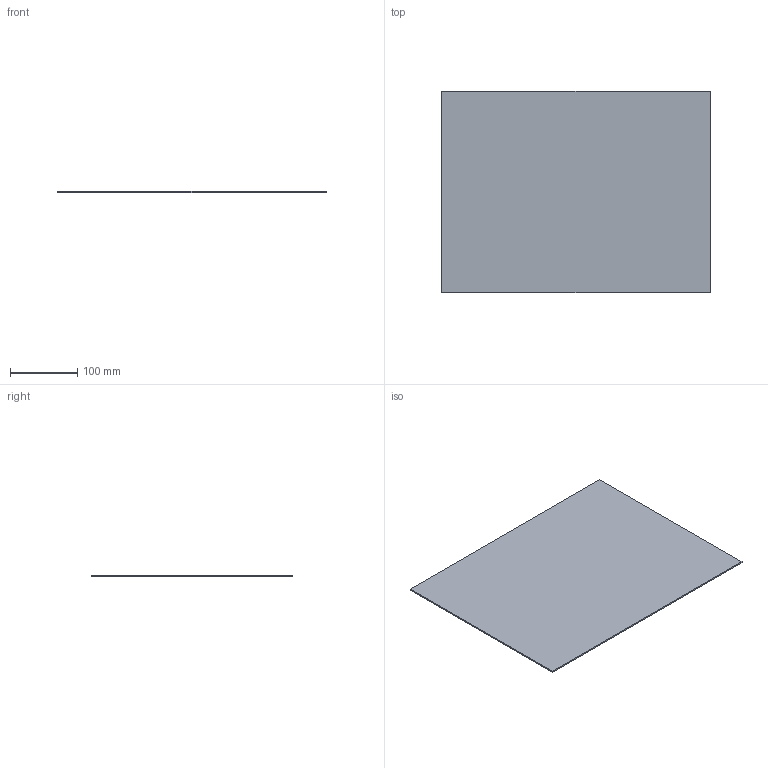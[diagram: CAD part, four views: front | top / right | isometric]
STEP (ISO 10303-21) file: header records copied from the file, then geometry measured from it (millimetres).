
FILE_DESCRIPTION (( 'STEP AP203' ), '1' );
FILE_NAME ('v4v3v2piso.STEP', '2026-08-19T20:49:51', ( '' ), ( '' ), 'SwSTEP 2.0', 'SolidWorks 2024', '' );
FILE_SCHEMA (( 'CONFIG_CONTROL_DESIGN' ));
Length unit declared in the file: millimetre
Products named in the file (1): v4v3v2piso
Bounding box: 400 x 300 x 2 mm (x, y, z)
Volume: 240000 mm3; surface area: 242800 mm2
Topology: 1 solids, 1 shells, 6 faces, 12 edges, 8 vertices
Faces by surface type: plane 6
Entity records: 231 total; most frequent: CARTESIAN_POINT 27, DIRECTION 26, ORIENTED_EDGE 24, EDGE_CURVE 12, LINE 12, VECTOR 12, PERSON_AND_ORGANIZATION 8, VERTEX_POINT 8
